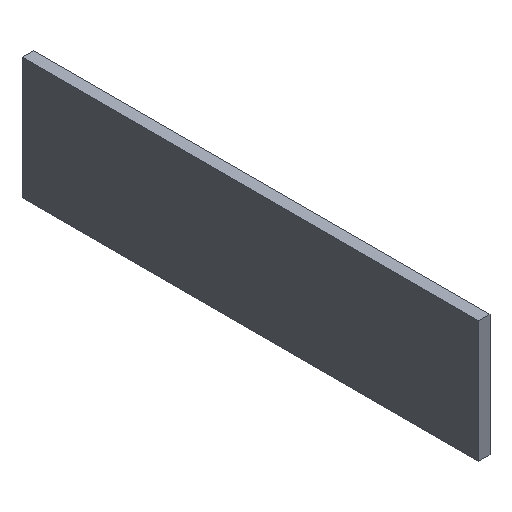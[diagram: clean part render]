
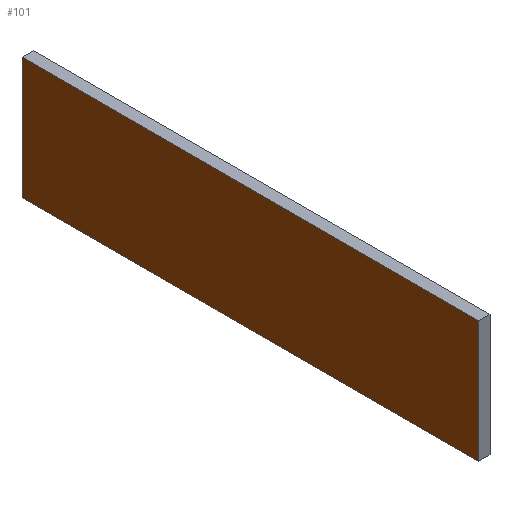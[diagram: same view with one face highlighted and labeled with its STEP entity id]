
A CAD part, isometric view. The second image highlights one B-rep face of the part: STEP entity #101.
In plain terms, the highlighted planar face has unit normal (-1, 0, 0).
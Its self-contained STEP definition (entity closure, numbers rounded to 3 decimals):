
#15=FACE_OUTER_BOUND('',#21,.T.);
#21=EDGE_LOOP('',(#71,#72,#73,#74));
#27=LINE('',#157,#39);
#28=LINE('',#159,#40);
#29=LINE('',#161,#41);
#30=LINE('',#162,#42);
#39=VECTOR('',#131,1.);
#40=VECTOR('',#132,1.);
#41=VECTOR('',#133,1.);
#42=VECTOR('',#134,1.);
#51=VERTEX_POINT('',#155);
#52=VERTEX_POINT('',#156);
#53=VERTEX_POINT('',#158);
#54=VERTEX_POINT('',#160);
#59=EDGE_CURVE('',#51,#52,#27,.T.);
#60=EDGE_CURVE('',#52,#53,#28,.T.);
#61=EDGE_CURVE('',#54,#53,#29,.T.);
#62=EDGE_CURVE('',#51,#54,#30,.T.);
#71=ORIENTED_EDGE('',*,*,#59,.T.);
#72=ORIENTED_EDGE('',*,*,#60,.T.);
#73=ORIENTED_EDGE('',*,*,#61,.F.);
#74=ORIENTED_EDGE('',*,*,#62,.F.);
#95=PLANE('',#121);
#101=ADVANCED_FACE('',(#15),#95,.F.);
#121=AXIS2_PLACEMENT_3D('',#154,#129,#130);
#129=DIRECTION('center_axis',(1.,0.,0.));
#130=DIRECTION('ref_axis',(0.,0.,1.));
#131=DIRECTION('',(0.,0.,1.));
#132=DIRECTION('',(0.,1.,0.));
#133=DIRECTION('',(0.,0.,1.));
#134=DIRECTION('',(0.,1.,0.));
#154=CARTESIAN_POINT('Origin',(-39.15,42.,-11.8));
#155=CARTESIAN_POINT('',(-39.15,42.,-11.8));
#156=CARTESIAN_POINT('',(-39.15,42.,-10.2));
#157=CARTESIAN_POINT('',(-39.15,42.,-11.8));
#158=CARTESIAN_POINT('',(-39.15,48.,-10.2));
#159=CARTESIAN_POINT('',(-39.15,42.,-10.2));
#160=CARTESIAN_POINT('',(-39.15,48.,-11.8));
#161=CARTESIAN_POINT('',(-39.15,48.,-11.8));
#162=CARTESIAN_POINT('',(-39.15,42.,-11.8));
